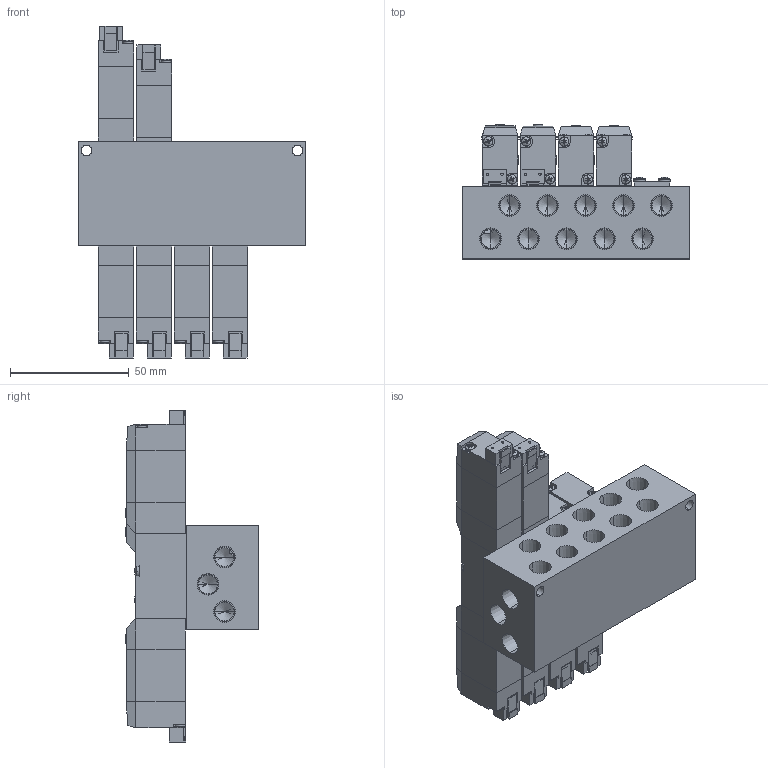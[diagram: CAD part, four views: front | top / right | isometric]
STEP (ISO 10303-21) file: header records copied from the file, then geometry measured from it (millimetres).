
FILE_DESCRIPTION (( 'STEP AP203' ), '1' );
FILE_NAME ('MFS#-PC5-01-SP.STEP', '2016-02-04T03:27:09', ( 'Sam Lin' ), ( '' ), 'SwSTEP 2.0', 'SolidWorks 2013', '' );
FILE_SCHEMA (( 'CONFIG_CONTROL_DESIGN' ));
Length unit declared in the file: metre
Products named in the file (14): PC5-7; MFS-02; PC5-8; ISO 7045 - M2.5 x 25; PC5-10; PC5-2; PC5-9-345; ISO 7045 - M2 x 10; MFS#-PC5-01-SP; PC5-3; PC5-5; PC-MARK; PC5-6; MFS-01
Assembly tree (68 placements, depth 2):
  MFS#-PC5-01-SP
    MFS-01
    MFS-02
    ISO 7045 - M2.5 x 25  x10
    PC5-2  x2
    ISO 7045 - M2 x 10  x16
    PC5-3  x3
    PC5-5  x6
    PC-MARK  x4
    PC5-6  x6
    PC5-7  x6
    PC5-8  x6
    PC5-10  x6
    PC5-9-345
Bounding box: 96 x 56.5 x 140 mm (x, y, z)
Volume: 261397 mm3; surface area: 85738.9 mm2
Topology: 98 solids, 98 shells, 2392 faces, 5889 edges, 3671 vertices
Faces by surface type: plane 1458, cylinder 392, cone 354, bspline 188
Entity records: 17869 total; most frequent: CARTESIAN_POINT 3110, DIRECTION 2533, ORIENTED_EDGE 2344, EDGE_CURVE 1172, AXIS2_PLACEMENT_3D 905, VERTEX_POINT 760, LINE 723, VECTOR 723
